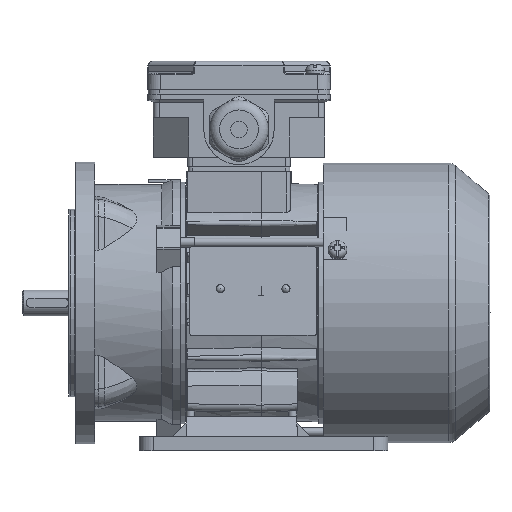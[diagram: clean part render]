
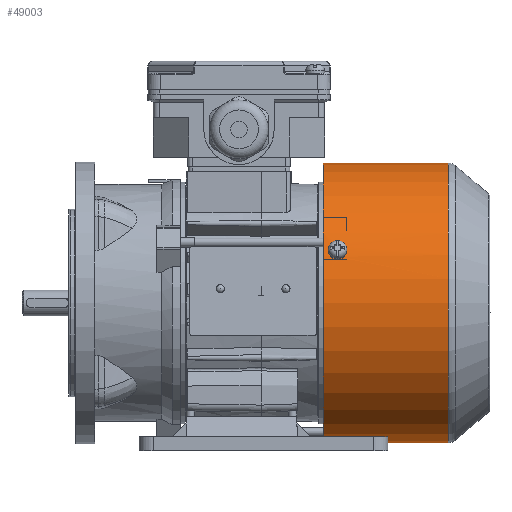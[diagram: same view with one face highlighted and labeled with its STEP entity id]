
A CAD part, front view. The second image highlights one B-rep face of the part: STEP entity #49003.
In plain terms, the highlighted cylindrical face has radius 59.6 mm (diameter 119.2 mm), a full revolution.
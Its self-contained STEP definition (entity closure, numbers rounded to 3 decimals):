
#866=B_SPLINE_CURVE_WITH_KNOTS('',3,(#73691,#73692,#73693,#73694,#73695,
#73696,#73697),.UNSPECIFIED.,.F.,.F.,(4,1,1,1,4),(0.,0.002,
0.004,0.006,0.008),
 .UNSPECIFIED.);
#868=B_SPLINE_CURVE_WITH_KNOTS('',3,(#73715,#73716,#73717,#73718,#73719,
#73720,#73721),.UNSPECIFIED.,.F.,.F.,(4,1,1,1,4),(0.,
0.002,0.004,0.006,0.008),
 .UNSPECIFIED.);
#870=B_SPLINE_CURVE_WITH_KNOTS('',3,(#73742,#73743,#73744,#73745,#73746,
#73747,#73748),.UNSPECIFIED.,.F.,.F.,(4,1,1,1,4),(0.,0.002,
0.004,0.006,0.008),
 .UNSPECIFIED.);
#872=B_SPLINE_CURVE_WITH_KNOTS('',3,(#73766,#73767,#73768,#73769,#73770,
#73771,#73772),.UNSPECIFIED.,.F.,.F.,(4,1,1,1,4),(0.,0.002,
0.004,0.006,0.008),
 .UNSPECIFIED.);
#873=B_SPLINE_CURVE_WITH_KNOTS('',3,(#73778,#73779,#73780,#73781,#73782,
#73783,#73784),.UNSPECIFIED.,.F.,.F.,(4,1,1,1,4),(0.,
0.002,0.004,0.006,0.007),
 .UNSPECIFIED.);
#874=B_SPLINE_CURVE_WITH_KNOTS('',3,(#73787,#73788,#73789,#73790,#73791,
#73792,#73793),.UNSPECIFIED.,.F.,.F.,(4,1,1,1,4),(0.,
0.002,0.004,0.006,0.007),
 .UNSPECIFIED.);
#2762=CIRCLE('',#50893,59.6);
#3367=CIRCLE('',#52136,59.6);
#3369=CIRCLE('',#52140,59.6);
#3370=CIRCLE('',#52142,59.6);
#3372=CIRCLE('',#52146,59.6);
#3374=CIRCLE('',#52151,59.6);
#11414=ORIENTED_EDGE('',*,*,#18256,.T.);
#11415=ORIENTED_EDGE('',*,*,#18253,.T.);
#11416=ORIENTED_EDGE('',*,*,#18261,.T.);
#11417=ORIENTED_EDGE('',*,*,#18259,.T.);
#11418=ORIENTED_EDGE('',*,*,#18262,.F.);
#11419=ORIENTED_EDGE('',*,*,#18263,.F.);
#11420=ORIENTED_EDGE('',*,*,#18243,.T.);
#11421=ORIENTED_EDGE('',*,*,#18240,.T.);
#11422=ORIENTED_EDGE('',*,*,#18248,.T.);
#11423=ORIENTED_EDGE('',*,*,#18246,.T.);
#11424=ORIENTED_EDGE('',*,*,#16481,.F.);
#11425=ORIENTED_EDGE('',*,*,#18249,.T.);
#16481=EDGE_CURVE('',#21063,#21063,#2762,.T.);
#18240=EDGE_CURVE('',#22259,#22262,#866,.T.);
#18243=EDGE_CURVE('',#22263,#22259,#3367,.F.);
#18246=EDGE_CURVE('',#22265,#22263,#868,.T.);
#18248=EDGE_CURVE('',#22262,#22265,#3369,.F.);
#18249=EDGE_CURVE('',#22267,#22267,#3370,.F.);
#18253=EDGE_CURVE('',#22268,#22271,#870,.T.);
#18256=EDGE_CURVE('',#22272,#22268,#3372,.F.);
#18259=EDGE_CURVE('',#22274,#22272,#872,.T.);
#18261=EDGE_CURVE('',#22271,#22274,#3374,.F.);
#18262=EDGE_CURVE('',#22276,#22277,#873,.T.);
#18263=EDGE_CURVE('',#22277,#22276,#874,.T.);
#21063=VERTEX_POINT('',#69131);
#22259=VERTEX_POINT('',#73679);
#22262=VERTEX_POINT('',#73690);
#22263=VERTEX_POINT('',#73700);
#22265=VERTEX_POINT('',#73706);
#22267=VERTEX_POINT('',#73727);
#22268=VERTEX_POINT('',#73730);
#22271=VERTEX_POINT('',#73741);
#22272=VERTEX_POINT('',#73751);
#22274=VERTEX_POINT('',#73757);
#22276=VERTEX_POINT('',#73785);
#22277=VERTEX_POINT('',#73786);
#30297=EDGE_LOOP('',(#11414,#11415,#11416,#11417));
#30298=EDGE_LOOP('',(#11418,#11419));
#30299=EDGE_LOOP('',(#11420,#11421,#11422,#11423));
#30300=EDGE_LOOP('',(#11424));
#30301=EDGE_LOOP('',(#11425));
#32649=FACE_BOUND('',#30297,.T.);
#32650=FACE_BOUND('',#30298,.T.);
#32651=FACE_BOUND('',#30299,.T.);
#32652=FACE_BOUND('',#30300,.T.);
#32653=FACE_BOUND('',#30301,.T.);
#33733=CYLINDRICAL_SURFACE('',#52152,59.6);
#49003=ADVANCED_FACE('',(#32649,#32650,#32651,#32652,#32653),#33733,.T.);
#50893=AXIS2_PLACEMENT_3D('',#69130,#56739,#56740);
#52136=AXIS2_PLACEMENT_3D('',#73703,#60214,#60215);
#52140=AXIS2_PLACEMENT_3D('',#73724,#60223,#60224);
#52142=AXIS2_PLACEMENT_3D('',#73726,#60227,#60228);
#52146=AXIS2_PLACEMENT_3D('',#73754,#60238,#60239);
#52151=AXIS2_PLACEMENT_3D('',#73776,#60249,#60250);
#52152=AXIS2_PLACEMENT_3D('',#73777,#60251,#60252);
#56739=DIRECTION('',(-1.,0.,0.));
#56740=DIRECTION('',(0.,0.,1.));
#60214=DIRECTION('',(-1.,0.,0.));
#60215=DIRECTION('',(0.,0.866,-0.5));
#60223=DIRECTION('',(1.,0.,0.));
#60224=DIRECTION('',(0.,-0.866,0.5));
#60227=DIRECTION('',(1.,0.,0.));
#60228=DIRECTION('',(0.,0.,-1.));
#60238=DIRECTION('',(-1.,0.,0.));
#60239=DIRECTION('',(0.,0.,1.));
#60249=DIRECTION('',(1.,0.,0.));
#60250=DIRECTION('',(0.,0.,-1.));
#60251=DIRECTION('',(-1.,0.,0.));
#60252=DIRECTION('',(0.,0.,1.));
#69130=CARTESIAN_POINT('',(26.5,0.,0.));
#69131=CARTESIAN_POINT('',(26.5,0.,59.6));
#73679=CARTESIAN_POINT('',(35.,46.437,37.36));
#73690=CARTESIAN_POINT('',(30.,46.437,37.36));
#73691=CARTESIAN_POINT('',(35.,46.437,37.36));
#73692=CARTESIAN_POINT('',(35.,46.023,37.874));
#73693=CARTESIAN_POINT('',(34.458,45.191,38.867));
#73694=CARTESIAN_POINT('',(32.502,44.648,39.479));
#73695=CARTESIAN_POINT('',(30.542,45.19,38.869));
#73696=CARTESIAN_POINT('',(30.,46.023,37.874));
#73697=CARTESIAN_POINT('',(30.,46.437,37.36));
#73700=CARTESIAN_POINT('',(35.,47.484,36.02));
#73703=CARTESIAN_POINT('',(35.,0.,0.));
#73706=CARTESIAN_POINT('',(30.,47.484,36.02));
#73715=CARTESIAN_POINT('',(30.,47.484,36.02));
#73716=CARTESIAN_POINT('',(30.,47.883,35.493));
#73717=CARTESIAN_POINT('',(30.542,48.645,34.446));
#73718=CARTESIAN_POINT('',(32.498,49.108,33.771));
#73719=CARTESIAN_POINT('',(34.458,48.646,34.444));
#73720=CARTESIAN_POINT('',(35.,47.883,35.493));
#73721=CARTESIAN_POINT('',(35.,47.484,36.02));
#73724=CARTESIAN_POINT('',(30.,0.,0.));
#73726=CARTESIAN_POINT('',(79.809,0.,0.));
#73727=CARTESIAN_POINT('',(79.809,0.,-59.6));
#73730=CARTESIAN_POINT('',(35.,-55.573,21.536));
#73741=CARTESIAN_POINT('',(30.,-55.573,21.536));
#73742=CARTESIAN_POINT('',(35.,-55.573,21.536));
#73743=CARTESIAN_POINT('',(35.,-55.812,20.92));
#73744=CARTESIAN_POINT('',(34.458,-56.255,19.703));
#73745=CARTESIAN_POINT('',(32.502,-56.514,18.927));
#73746=CARTESIAN_POINT('',(30.542,-56.256,19.701));
#73747=CARTESIAN_POINT('',(30.,-55.812,20.92));
#73748=CARTESIAN_POINT('',(30.,-55.573,21.536));
#73751=CARTESIAN_POINT('',(35.,-54.936,23.112));
#73754=CARTESIAN_POINT('',(35.,0.,0.));
#73757=CARTESIAN_POINT('',(30.,-54.936,23.112));
#73766=CARTESIAN_POINT('',(30.,-54.936,23.112));
#73767=CARTESIAN_POINT('',(30.,-54.68,23.721));
#73768=CARTESIAN_POINT('',(30.542,-54.154,24.905));
#73769=CARTESIAN_POINT('',(32.498,-53.8,25.643));
#73770=CARTESIAN_POINT('',(34.458,-54.153,24.907));
#73771=CARTESIAN_POINT('',(35.,-54.68,23.721));
#73772=CARTESIAN_POINT('',(35.,-54.936,23.112));
#73776=CARTESIAN_POINT('',(30.,0.,0.));
#73777=CARTESIAN_POINT('',(-33.5,0.,0.));
#73778=CARTESIAN_POINT('',(35.,8.295,-59.02));
#73779=CARTESIAN_POINT('',(34.937,7.681,-59.106));
#73780=CARTESIAN_POINT('',(34.356,6.499,-59.249));
#73781=CARTESIAN_POINT('',(32.502,5.777,-59.318));
#73782=CARTESIAN_POINT('',(30.649,6.493,-59.25));
#73783=CARTESIAN_POINT('',(30.063,7.681,-59.106));
#73784=CARTESIAN_POINT('',(30.,8.295,-59.02));
#73785=CARTESIAN_POINT('',(35.,8.295,-59.02));
#73786=CARTESIAN_POINT('',(30.,8.295,-59.02));
#73787=CARTESIAN_POINT('',(30.,8.295,-59.02));
#73788=CARTESIAN_POINT('',(30.063,8.908,-58.934));
#73789=CARTESIAN_POINT('',(30.644,10.084,-58.746));
#73790=CARTESIAN_POINT('',(32.498,10.797,-58.613));
#73791=CARTESIAN_POINT('',(34.351,10.09,-58.745));
#73792=CARTESIAN_POINT('',(34.937,8.908,-58.934));
#73793=CARTESIAN_POINT('',(35.,8.295,-59.02));
